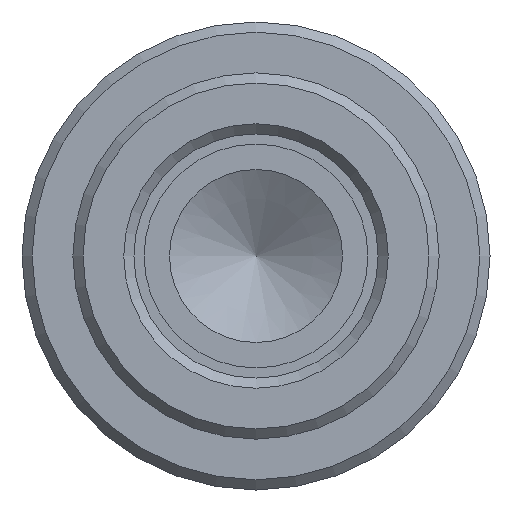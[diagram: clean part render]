
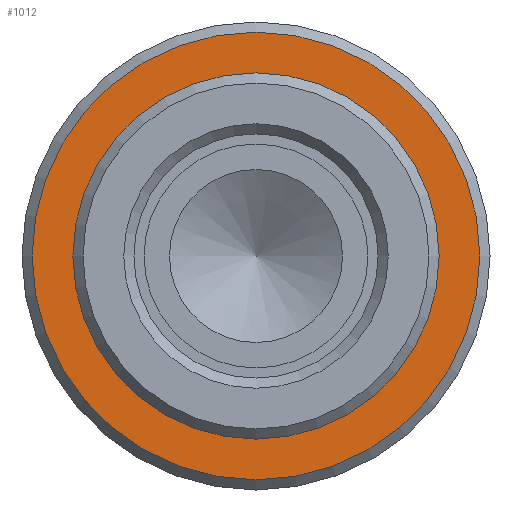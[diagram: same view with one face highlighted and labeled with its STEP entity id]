
A CAD part, front view. The second image highlights one B-rep face of the part: STEP entity #1012.
In plain terms, the highlighted planar face has unit normal (0, -1, 0).
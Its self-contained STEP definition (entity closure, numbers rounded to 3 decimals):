
#42=FACE_BOUND('',#178,.T.);
#57=PLANE('',#1127);
#106=FACE_OUTER_BOUND('',#177,.T.);
#177=EDGE_LOOP('',(#734));
#178=EDGE_LOOP('',(#735));
#373=CIRCLE('',#1116,9.);
#376=CIRCLE('',#1122,11.);
#444=VERTEX_POINT('',#1619);
#447=VERTEX_POINT('',#1630);
#549=EDGE_CURVE('',#444,#444,#373,.T.);
#553=EDGE_CURVE('',#447,#447,#376,.T.);
#734=ORIENTED_EDGE('',*,*,#553,.F.);
#735=ORIENTED_EDGE('',*,*,#549,.F.);
#1012=ADVANCED_FACE('',(#106,#42),#57,.T.);
#1116=AXIS2_PLACEMENT_3D('',#1621,#1294,#1295);
#1122=AXIS2_PLACEMENT_3D('',#1631,#1307,#1308);
#1127=AXIS2_PLACEMENT_3D('',#1641,#1319,#1320);
#1294=DIRECTION('center_axis',(0.,-1.,0.));
#1295=DIRECTION('ref_axis',(1.,0.,0.));
#1307=DIRECTION('center_axis',(0.,1.,0.));
#1308=DIRECTION('ref_axis',(-1.,0.,0.));
#1319=DIRECTION('center_axis',(0.,-1.,0.));
#1320=DIRECTION('ref_axis',(0.,0.,-1.));
#1619=CARTESIAN_POINT('',(-9.,5.,0.));
#1621=CARTESIAN_POINT('Origin',(0.,5.,0.));
#1630=CARTESIAN_POINT('',(11.,5.,0.));
#1631=CARTESIAN_POINT('Origin',(0.,5.,0.));
#1641=CARTESIAN_POINT('Origin',(9.,5.,0.));
